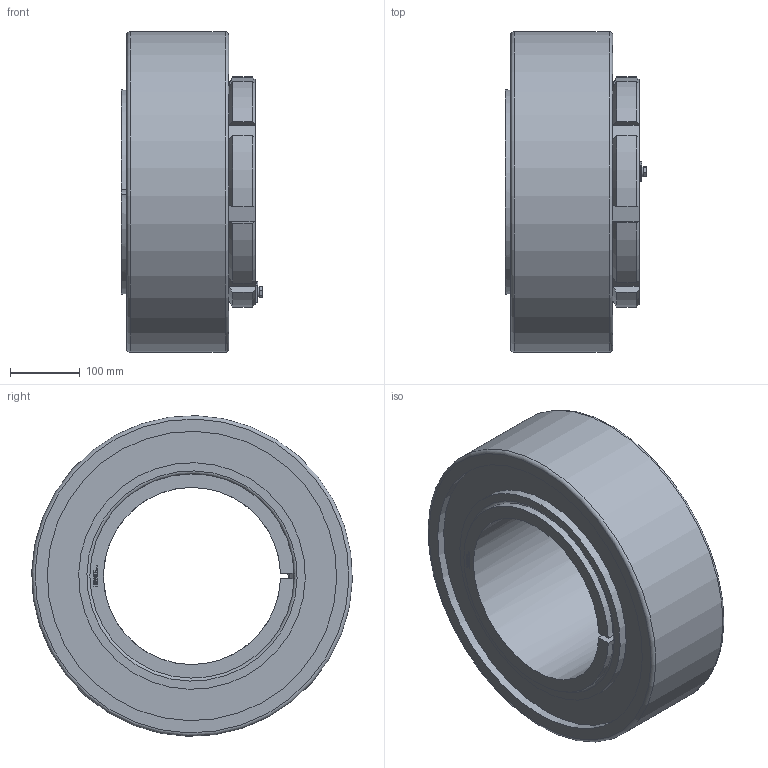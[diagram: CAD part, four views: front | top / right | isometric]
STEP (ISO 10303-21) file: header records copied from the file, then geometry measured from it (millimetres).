
FILE_DESCRIPTION( ( 'STEP AP203' ), ' ' );
FILE_NAME( 'p:/temp/worker_353/3748_4800/app_90_02016102823030575013686192d056f_000000_00_00_000000/format_0/BGL HE 3156 TL+C3156K.stp', '2016-10-28T21:03:07', ( '' ), ( '' ), ' ', 'PARTsolutions', ' ' );
FILE_SCHEMA( ( 'CONFIG_CONTROL_DESIGN' ) );
Length unit declared in the file: millimetre
Products named in the file (6): BGL HE 3156 TL+C3156K; _BGLHE3156TLB; _BGL HM 3056; _BGLHE3156TL+HE-C3156K; _BGL MS 3056part; _BGL MS 3056HHS
Assembly tree (5 placements, depth 2):
  BGL HE 3156 TL+C3156K
    _BGLHE3156TLB
    _BGL HM 3056
    _BGLHE3156TL+HE-C3156K
    _BGL MS 3056part
    _BGL MS 3056HHS
Bounding box: 203.05 x 459.84 x 459.84 mm (x, y, z)
Volume: 16900742.5 mm3; surface area: 1070693.9 mm2
Topology: 5 solids, 5 shells, 351 faces, 899 edges, 589 vertices
Faces by surface type: plane 230, cylinder 79, cone 38, torus 4
Full cylindrical faces by diameter (mm): 8 x9, 9 x1, 14.8 x1, 276 x1, 325 x2, 415 x2, 460 x1
Entity records: 10762 total; most frequent: CARTESIAN_POINT 2104, DIRECTION 1729, ORIENTED_EDGE 1726, EDGE_CURVE 863, VERTEX_POINT 586, AXIS2_PLACEMENT_3D 577, LINE 575, VECTOR 575
